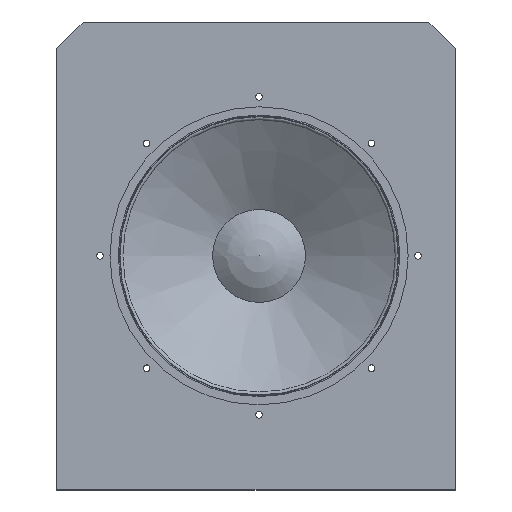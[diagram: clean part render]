
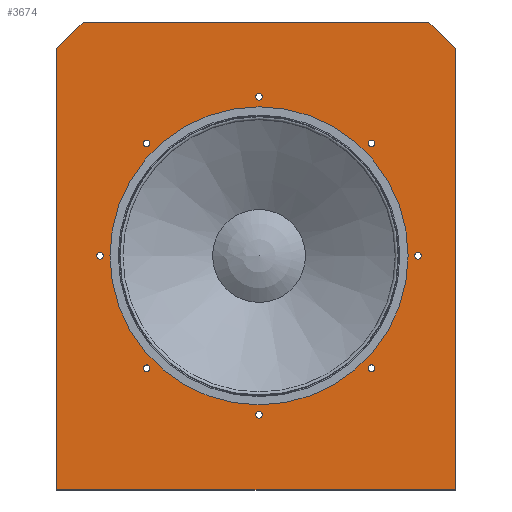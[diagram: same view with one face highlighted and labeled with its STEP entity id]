
A CAD part, top view. The second image highlights one B-rep face of the part: STEP entity #3674.
In plain terms, the highlighted planar face has unit normal (0, 0, 1).
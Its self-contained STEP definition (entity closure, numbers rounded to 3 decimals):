
#102=FACE_BOUND('',#698,.T.);
#103=FACE_BOUND('',#699,.T.);
#104=FACE_BOUND('',#700,.T.);
#105=FACE_BOUND('',#701,.T.);
#106=FACE_BOUND('',#702,.T.);
#107=FACE_BOUND('',#703,.T.);
#108=FACE_BOUND('',#704,.T.);
#109=FACE_BOUND('',#705,.T.);
#110=FACE_BOUND('',#706,.T.);
#287=PLANE('',#4087);
#474=FACE_OUTER_BOUND('',#697,.T.);
#697=EDGE_LOOP('',(#3328,#3329,#3330,#3331,#3332,#3333));
#698=EDGE_LOOP('',(#3334));
#699=EDGE_LOOP('',(#3335));
#700=EDGE_LOOP('',(#3336));
#701=EDGE_LOOP('',(#3337));
#702=EDGE_LOOP('',(#3338));
#703=EDGE_LOOP('',(#3339));
#704=EDGE_LOOP('',(#3340));
#705=EDGE_LOOP('',(#3341));
#706=EDGE_LOOP('',(#3342));
#948=LINE('',#7796,#1187);
#950=LINE('',#7800,#1189);
#953=LINE('',#7806,#1192);
#954=LINE('',#7808,#1193);
#955=LINE('',#7810,#1194);
#956=LINE('',#7811,#1195);
#1187=VECTOR('',#5072,10.);
#1189=VECTOR('',#5076,10.);
#1192=VECTOR('',#5081,10.);
#1193=VECTOR('',#5082,10.);
#1194=VECTOR('',#5083,10.);
#1195=VECTOR('',#5084,10.);
#1413=CIRCLE('',#4088,2.833);
#1414=CIRCLE('',#4089,2.833);
#1415=CIRCLE('',#4090,2.833);
#1416=CIRCLE('',#4091,2.833);
#1417=CIRCLE('',#4092,2.833);
#1418=CIRCLE('',#4093,2.833);
#1419=CIRCLE('',#4094,2.833);
#1420=CIRCLE('',#4095,2.833);
#1421=CIRCLE('',#4096,127.5);
#1758=VERTEX_POINT('',#7793);
#1759=VERTEX_POINT('',#7795);
#1760=VERTEX_POINT('',#7799);
#1762=VERTEX_POINT('',#7805);
#1763=VERTEX_POINT('',#7807);
#1764=VERTEX_POINT('',#7809);
#1765=VERTEX_POINT('',#7812);
#1766=VERTEX_POINT('',#7814);
#1767=VERTEX_POINT('',#7816);
#1768=VERTEX_POINT('',#7818);
#1769=VERTEX_POINT('',#7820);
#1770=VERTEX_POINT('',#7822);
#1771=VERTEX_POINT('',#7824);
#1772=VERTEX_POINT('',#7826);
#1773=VERTEX_POINT('',#7828);
#2285=EDGE_CURVE('',#1758,#1759,#948,.T.);
#2287=EDGE_CURVE('',#1760,#1759,#950,.T.);
#2290=EDGE_CURVE('',#1758,#1762,#953,.T.);
#2291=EDGE_CURVE('',#1763,#1762,#954,.T.);
#2292=EDGE_CURVE('',#1763,#1764,#955,.T.);
#2293=EDGE_CURVE('',#1764,#1760,#956,.T.);
#2294=EDGE_CURVE('',#1765,#1765,#1413,.T.);
#2295=EDGE_CURVE('',#1766,#1766,#1414,.T.);
#2296=EDGE_CURVE('',#1767,#1767,#1415,.T.);
#2297=EDGE_CURVE('',#1768,#1768,#1416,.T.);
#2298=EDGE_CURVE('',#1769,#1769,#1417,.T.);
#2299=EDGE_CURVE('',#1770,#1770,#1418,.T.);
#2300=EDGE_CURVE('',#1771,#1771,#1419,.T.);
#2301=EDGE_CURVE('',#1772,#1772,#1420,.T.);
#2302=EDGE_CURVE('',#1773,#1773,#1421,.T.);
#3328=ORIENTED_EDGE('',*,*,#2285,.F.);
#3329=ORIENTED_EDGE('',*,*,#2290,.T.);
#3330=ORIENTED_EDGE('',*,*,#2291,.F.);
#3331=ORIENTED_EDGE('',*,*,#2292,.T.);
#3332=ORIENTED_EDGE('',*,*,#2293,.T.);
#3333=ORIENTED_EDGE('',*,*,#2287,.T.);
#3334=ORIENTED_EDGE('',*,*,#2294,.F.);
#3335=ORIENTED_EDGE('',*,*,#2295,.F.);
#3336=ORIENTED_EDGE('',*,*,#2296,.F.);
#3337=ORIENTED_EDGE('',*,*,#2297,.F.);
#3338=ORIENTED_EDGE('',*,*,#2298,.F.);
#3339=ORIENTED_EDGE('',*,*,#2299,.F.);
#3340=ORIENTED_EDGE('',*,*,#2300,.F.);
#3341=ORIENTED_EDGE('',*,*,#2301,.F.);
#3342=ORIENTED_EDGE('',*,*,#2302,.F.);
#3674=ADVANCED_FACE('',(#474,#102,#103,#104,#105,#106,#107,#108,#109,#110),
#287,.T.);
#4087=AXIS2_PLACEMENT_3D('',#7804,#5079,#5080);
#4088=AXIS2_PLACEMENT_3D('',#7813,#5085,#5086);
#4089=AXIS2_PLACEMENT_3D('',#7815,#5087,#5088);
#4090=AXIS2_PLACEMENT_3D('',#7817,#5089,#5090);
#4091=AXIS2_PLACEMENT_3D('',#7819,#5091,#5092);
#4092=AXIS2_PLACEMENT_3D('',#7821,#5093,#5094);
#4093=AXIS2_PLACEMENT_3D('',#7823,#5095,#5096);
#4094=AXIS2_PLACEMENT_3D('',#7825,#5097,#5098);
#4095=AXIS2_PLACEMENT_3D('',#7827,#5099,#5100);
#4096=AXIS2_PLACEMENT_3D('',#7829,#5101,#5102);
#5072=DIRECTION('',(0.707,-0.707,0.));
#5076=DIRECTION('',(0.,1.,0.));
#5079=DIRECTION('center_axis',(0.,0.,1.));
#5080=DIRECTION('ref_axis',(1.,0.,0.));
#5081=DIRECTION('',(-1.,0.,0.));
#5082=DIRECTION('',(0.707,0.707,0.));
#5083=DIRECTION('',(0.,-1.,0.));
#5084=DIRECTION('',(1.,0.,0.));
#5085=DIRECTION('center_axis',(0.,0.,1.));
#5086=DIRECTION('ref_axis',(0.,1.,0.));
#5087=DIRECTION('center_axis',(0.,0.,1.));
#5088=DIRECTION('ref_axis',(-0.707,0.707,0.));
#5089=DIRECTION('center_axis',(0.,0.,1.));
#5090=DIRECTION('ref_axis',(-1.,0.,0.));
#5091=DIRECTION('center_axis',(0.,0.,1.));
#5092=DIRECTION('ref_axis',(-0.707,-0.707,0.));
#5093=DIRECTION('center_axis',(0.,0.,1.));
#5094=DIRECTION('ref_axis',(0.,-1.,0.));
#5095=DIRECTION('center_axis',(0.,0.,1.));
#5096=DIRECTION('ref_axis',(0.707,-0.707,0.));
#5097=DIRECTION('center_axis',(0.,0.,1.));
#5098=DIRECTION('ref_axis',(0.707,0.707,0.));
#5099=DIRECTION('center_axis',(0.,0.,1.));
#5100=DIRECTION('ref_axis',(1.,0.,0.));
#5101=DIRECTION('center_axis',(0.,0.,1.));
#5102=DIRECTION('ref_axis',(1.,0.,0.));
#7793=CARTESIAN_POINT('',(145.333,200.,4.533));
#7795=CARTESIAN_POINT('',(167.97,177.363,4.533));
#7796=CARTESIAN_POINT('',(164.659,180.674,4.533));
#7799=CARTESIAN_POINT('',(167.97,-200.,4.533));
#7800=CARTESIAN_POINT('',(167.97,-200.,4.533));
#7804=CARTESIAN_POINT('Origin',(0.,0.,4.533));
#7805=CARTESIAN_POINT('',(-150.547,200.,4.533));
#7806=CARTESIAN_POINT('',(167.97,200.,4.533));
#7807=CARTESIAN_POINT('',(-173.184,177.363,4.533));
#7808=CARTESIAN_POINT('',(-168.57,181.977,4.533));
#7809=CARTESIAN_POINT('',(-173.184,-200.,4.533));
#7810=CARTESIAN_POINT('',(-173.184,200.,4.533));
#7811=CARTESIAN_POINT('',(-173.184,-200.,4.533));
#7812=CARTESIAN_POINT('',(-138.833,0.,4.533));
#7813=CARTESIAN_POINT('Origin',(-136.,0.,4.533));
#7814=CARTESIAN_POINT('',(-99.,-96.166,4.533));
#7815=CARTESIAN_POINT('Origin',(-96.166,-96.166,4.533));
#7816=CARTESIAN_POINT('',(-2.833,-136.,4.533));
#7817=CARTESIAN_POINT('Origin',(0.,-136.,4.533));
#7818=CARTESIAN_POINT('',(93.333,-96.166,4.533));
#7819=CARTESIAN_POINT('Origin',(96.166,-96.166,4.533));
#7820=CARTESIAN_POINT('',(133.167,0.,4.533));
#7821=CARTESIAN_POINT('Origin',(136.,0.,4.533));
#7822=CARTESIAN_POINT('',(93.333,96.166,4.533));
#7823=CARTESIAN_POINT('Origin',(96.166,96.166,4.533));
#7824=CARTESIAN_POINT('',(-99.,96.166,4.533));
#7825=CARTESIAN_POINT('Origin',(-96.166,96.166,4.533));
#7826=CARTESIAN_POINT('',(-2.833,136.,4.533));
#7827=CARTESIAN_POINT('Origin',(0.,136.,4.533));
#7828=CARTESIAN_POINT('',(-127.5,0.,4.533));
#7829=CARTESIAN_POINT('Origin',(0.,0.,4.533));
